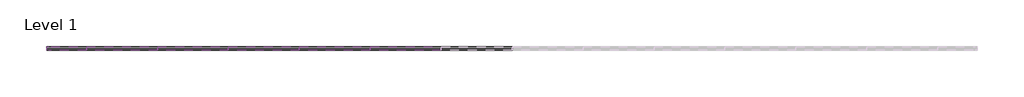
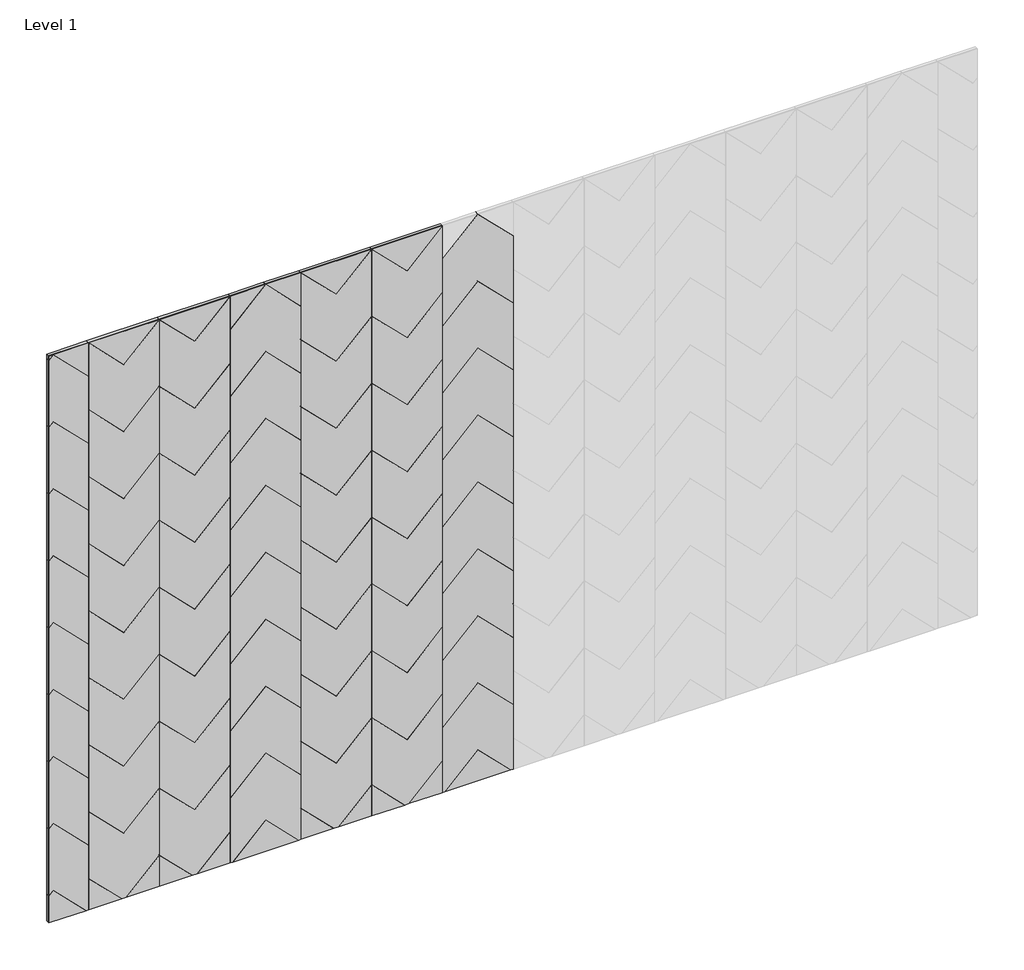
# One storey, part 1 of 2: 69 proxies.
"""IFC4 building model written with IfcOpenShell, lengths in millimetres."""

from ifc_helpers import new_model, si_unit, origin, place, context, project, spatial, transform, mapped, element, save
from components import dart_block_c844b8d5, dart_block_f40f4385, dart_block_8b6eca5b, dart_block_9fc4d5a6, dart_block_84291ee9, dart_block_d6e125e5, dart_block_31c125ed, dart_block_6d389e56, dart_block_a08385c4, dart_block_7aee04b3, dart_block_84e837c1

model = new_model("IFC4")

# Units and contexts
model_context = context("Model", 3, world=origin())
ifc_project = project(units=[si_unit("LENGTHUNIT", "METRE", prefix="MILLI")], contexts=[model_context])

# Site, building, storey
site = spatial("IfcSite", under=ifc_project)
building = spatial("IfcBuilding", under=site)
storey = spatial("IfcBuildingStorey", under=building, Name="Level 1", Elevation=0.0)

# Proxies
placement = place(None, origin())
dart_block_shape = dart_block_c844b8d5(model_context)
element("IfcBuildingElementProxy", 1, Name="FilzFelt_Dart_Block : Dart Block", ObjectType="FilzFelt_Dart_Block : Dart Block", at=placement, inside=storey, context=model_context, shape_type="MappedRepresentation", body=[
    mapped(dart_block_shape, transform((5246.9916002, -10315.1339335, 2763.5), x_axis=(1.0, 0.0, 0.0), y_axis=(0.0, 0.0, 1.0), z_axis=(0.0, -1.0, 0.0))),
])
dart_block_2_shape = dart_block_f40f4385(model_context)
element("IfcBuildingElementProxy", 2, Name="FilzFelt_Dart_Block : Dart Block", ObjectType="FilzFelt_Dart_Block : Dart Block", at=placement, inside=storey, context=model_context, shape_type="MappedRepresentation", body=[
    mapped(dart_block_2_shape, transform((5246.9916002, -10315.1339335, 2509.5), x_axis=(1.0, 0.0, 0.0), y_axis=(0.0, 0.0, 1.0), z_axis=(0.0, -1.0, 0.0))),
])
element("IfcBuildingElementProxy", 3, Name="FilzFelt_Dart_Block : Dart Block", ObjectType="FilzFelt_Dart_Block : Dart Block", at=placement, inside=storey, context=model_context, shape_type="MappedRepresentation", body=[
    mapped(dart_block_2_shape, transform((5246.9916002, -10315.1339335, 2001.5), x_axis=(1.0, 0.0, 0.0), y_axis=(0.0, 0.0, 1.0), z_axis=(0.0, -1.0, 0.0))),
])
element("IfcBuildingElementProxy", 4, Name="FilzFelt_Dart_Block : Dart Block", ObjectType="FilzFelt_Dart_Block : Dart Block", at=placement, inside=storey, context=model_context, shape_type="MappedRepresentation", body=[
    mapped(dart_block_2_shape, transform((5246.9916002, -10315.1339335, 1493.5), x_axis=(1.0, 0.0, 0.0), y_axis=(0.0, 0.0, 1.0), z_axis=(0.0, -1.0, 0.0))),
])
element("IfcBuildingElementProxy", 5, Name="FilzFelt_Dart_Block : Dart Block", ObjectType="FilzFelt_Dart_Block : Dart Block", at=placement, inside=storey, context=model_context, shape_type="MappedRepresentation", body=[
    mapped(dart_block_2_shape, transform((5246.9916002, -10315.1339335, 985.5), x_axis=(1.0, 0.0, 0.0), y_axis=(0.0, 0.0, 1.0), z_axis=(0.0, -1.0, 0.0))),
])
element("IfcBuildingElementProxy", 6, Name="FilzFelt_Dart_Block : Dart Block", ObjectType="FilzFelt_Dart_Block : Dart Block", at=placement, inside=storey, context=model_context, shape_type="MappedRepresentation", body=[
    mapped(dart_block_2_shape, transform((5246.9916002, -10315.1339335, 2255.5), x_axis=(1.0, 0.0, 0.0), y_axis=(0.0, 0.0, 1.0), z_axis=(0.0, -1.0, 0.0))),
])
element("IfcBuildingElementProxy", 7, Name="FilzFelt_Dart_Block : Dart Block", ObjectType="FilzFelt_Dart_Block : Dart Block", at=placement, inside=storey, context=model_context, shape_type="MappedRepresentation", body=[
    mapped(dart_block_2_shape, transform((5246.9916002, -10315.1339335, 1747.5), x_axis=(1.0, 0.0, 0.0), y_axis=(0.0, 0.0, 1.0), z_axis=(0.0, -1.0, 0.0))),
])
element("IfcBuildingElementProxy", 8, Name="FilzFelt_Dart_Block : Dart Block", ObjectType="FilzFelt_Dart_Block : Dart Block", at=placement, inside=storey, context=model_context, shape_type="MappedRepresentation", body=[
    mapped(dart_block_2_shape, transform((5246.9916002, -10315.1339335, 1239.5), x_axis=(1.0, 0.0, 0.0), y_axis=(0.0, 0.0, 1.0), z_axis=(0.0, -1.0, 0.0))),
])
dart_block_3_shape = dart_block_8b6eca5b(model_context)
element("IfcBuildingElementProxy", 9, Name="FilzFelt_Dart_Block : Dart Block", ObjectType="FilzFelt_Dart_Block : Dart Block", at=placement, inside=storey, context=model_context, shape_type="MappedRepresentation", body=[
    mapped(dart_block_3_shape, transform((5246.9916002, -10315.1339335, 731.5), x_axis=(1.0, 0.0, 0.0), y_axis=(0.0, 0.0, 1.0), z_axis=(0.0, -1.0, 0.0))),
])
dart_block_4_shape = dart_block_9fc4d5a6(model_context)
element("IfcBuildingElementProxy", 10, Name="FilzFelt_Dart_Block : Dart Block", ObjectType="FilzFelt_Dart_Block : Dart Block", at=placement, inside=storey, context=model_context, shape_type="MappedRepresentation", body=[
    mapped(dart_block_4_shape, transform((5246.9916002, -10315.1339335, 477.5), x_axis=(1.0, 0.0, 0.0), y_axis=(0.0, 0.0, 1.0), z_axis=(0.0, -1.0, 0.0))),
])
dart_block_5_shape = dart_block_84291ee9(model_context)
element("IfcBuildingElementProxy", 11, Name="FilzFelt_Dart_Block : Dart Block", ObjectType="FilzFelt_Dart_Block : Dart Block", at=placement, inside=storey, context=model_context, shape_type="MappedRepresentation", body=[
    mapped(dart_block_5_shape, transform((5500.9916002, -10315.1339335, 477.5), x_axis=(-1.0, 0.0, 0.0), y_axis=(0.0, 0.0, -1.0), z_axis=(0.0, -1.0, 0.0))),
])
element("IfcBuildingElementProxy", 12, Name="FilzFelt_Dart_Block : Dart Block", ObjectType="FilzFelt_Dart_Block : Dart Block", at=placement, inside=storey, context=model_context, shape_type="MappedRepresentation", body=[
    mapped(dart_block_5_shape, transform((6516.9916002, -10315.1339335, 477.5), x_axis=(-1.0, 0.0, 0.0), y_axis=(0.0, 0.0, -1.0), z_axis=(0.0, -1.0, 0.0))),
])
dart_block_6_shape = dart_block_d6e125e5(model_context)
element("IfcBuildingElementProxy", 13, Name="FilzFelt_Dart_Block : Dart Block", ObjectType="FilzFelt_Dart_Block : Dart Block", at=placement, inside=storey, context=model_context, shape_type="MappedRepresentation", body=[
    mapped(dart_block_6_shape, transform((5500.9916002, -10315.1339335, 731.5), x_axis=(-1.0, 0.0, 0.0), y_axis=(0.0, 0.0, -1.0), z_axis=(0.0, -1.0, 0.0))),
])
element("IfcBuildingElementProxy", 14, Name="FilzFelt_Dart_Block : Dart Block", ObjectType="FilzFelt_Dart_Block : Dart Block", at=placement, inside=storey, context=model_context, shape_type="MappedRepresentation", body=[
    mapped(dart_block_6_shape, transform((6516.9916002, -10315.1339335, 731.5), x_axis=(-1.0, 0.0, 0.0), y_axis=(0.0, 0.0, -1.0), z_axis=(0.0, -1.0, 0.0))),
])
dart_block_7_shape = dart_block_31c125ed(model_context)
element("IfcBuildingElementProxy", 15, Name="FilzFelt_Dart_Block : Dart Block", ObjectType="FilzFelt_Dart_Block : Dart Block", at=placement, inside=storey, context=model_context, shape_type="MappedRepresentation", body=[
    mapped(dart_block_7_shape, transform((5500.9916002, -10315.1339335, 985.5), x_axis=(-1.0, 0.0, 0.0), y_axis=(0.0, 0.0, -1.0), z_axis=(0.0, -1.0, 0.0))),
])
element("IfcBuildingElementProxy", 16, Name="FilzFelt_Dart_Block : Dart Block", ObjectType="FilzFelt_Dart_Block : Dart Block", at=placement, inside=storey, context=model_context, shape_type="MappedRepresentation", body=[
    mapped(dart_block_7_shape, transform((5500.9916002, -10315.1339335, 1493.5), x_axis=(-1.0, 0.0, 0.0), y_axis=(0.0, 0.0, -1.0), z_axis=(0.0, -1.0, 0.0))),
])
element("IfcBuildingElementProxy", 17, Name="FilzFelt_Dart_Block : Dart Block", ObjectType="FilzFelt_Dart_Block : Dart Block", at=placement, inside=storey, context=model_context, shape_type="MappedRepresentation", body=[
    mapped(dart_block_7_shape, transform((5500.9916002, -10315.1339335, 2001.5), x_axis=(-1.0, 0.0, 0.0), y_axis=(0.0, 0.0, -1.0), z_axis=(0.0, -1.0, 0.0))),
])
element("IfcBuildingElementProxy", 18, Name="FilzFelt_Dart_Block : Dart Block", ObjectType="FilzFelt_Dart_Block : Dart Block", at=placement, inside=storey, context=model_context, shape_type="MappedRepresentation", body=[
    mapped(dart_block_7_shape, transform((5500.9916002, -10315.1339335, 2509.5), x_axis=(-1.0, 0.0, 0.0), y_axis=(0.0, 0.0, -1.0), z_axis=(0.0, -1.0, 0.0))),
])
element("IfcBuildingElementProxy", 19, Name="FilzFelt_Dart_Block : Dart Block", ObjectType="FilzFelt_Dart_Block : Dart Block", at=placement, inside=storey, context=model_context, shape_type="MappedRepresentation", body=[
    mapped(dart_block_7_shape, transform((5754.9916002, -10315.1339335, 1239.5), x_axis=(-1.0, 0.0, 0.0), y_axis=(0.0, 0.0, -1.0), z_axis=(0.0, -1.0, 0.0))),
])
element("IfcBuildingElementProxy", 20, Name="FilzFelt_Dart_Block : Dart Block", ObjectType="FilzFelt_Dart_Block : Dart Block", at=placement, inside=storey, context=model_context, shape_type="MappedRepresentation", body=[
    mapped(dart_block_7_shape, transform((5754.9916002, -10315.1339335, 1747.5), x_axis=(-1.0, 0.0, 0.0), y_axis=(0.0, 0.0, -1.0), z_axis=(0.0, -1.0, 0.0))),
])
element("IfcBuildingElementProxy", 21, Name="FilzFelt_Dart_Block : Dart Block", ObjectType="FilzFelt_Dart_Block : Dart Block", at=placement, inside=storey, context=model_context, shape_type="MappedRepresentation", body=[
    mapped(dart_block_7_shape, transform((5754.9916002, -10315.1339335, 2255.5), x_axis=(-1.0, 0.0, 0.0), y_axis=(0.0, 0.0, -1.0), z_axis=(0.0, -1.0, 0.0))),
])
element("IfcBuildingElementProxy", 22, Name="FilzFelt_Dart_Block : Dart Block", ObjectType="FilzFelt_Dart_Block : Dart Block", at=placement, inside=storey, context=model_context, shape_type="MappedRepresentation", body=[
    mapped(dart_block_7_shape, transform((6008.9916002, -10315.1339335, 2509.5), x_axis=(1.0, 0.0, 0.0), y_axis=(0.0, 0.0, 1.0), z_axis=(0.0, -1.0, 0.0))),
])
element("IfcBuildingElementProxy", 23, Name="FilzFelt_Dart_Block : Dart Block", ObjectType="FilzFelt_Dart_Block : Dart Block", at=placement, inside=storey, context=model_context, shape_type="MappedRepresentation", body=[
    mapped(dart_block_7_shape, transform((6008.9916002, -10315.1339335, 2001.5), x_axis=(1.0, 0.0, 0.0), y_axis=(0.0, 0.0, 1.0), z_axis=(0.0, -1.0, 0.0))),
])
element("IfcBuildingElementProxy", 24, Name="FilzFelt_Dart_Block : Dart Block", ObjectType="FilzFelt_Dart_Block : Dart Block", at=placement, inside=storey, context=model_context, shape_type="MappedRepresentation", body=[
    mapped(dart_block_7_shape, transform((6008.9916002, -10315.1339335, 1493.5), x_axis=(1.0, 0.0, 0.0), y_axis=(0.0, 0.0, 1.0), z_axis=(0.0, -1.0, 0.0))),
])
element("IfcBuildingElementProxy", 25, Name="FilzFelt_Dart_Block : Dart Block", ObjectType="FilzFelt_Dart_Block : Dart Block", at=placement, inside=storey, context=model_context, shape_type="MappedRepresentation", body=[
    mapped(dart_block_7_shape, transform((6008.9916002, -10315.1339335, 985.5), x_axis=(1.0, 0.0, 0.0), y_axis=(0.0, 0.0, 1.0), z_axis=(0.0, -1.0, 0.0))),
])
element("IfcBuildingElementProxy", 26, Name="FilzFelt_Dart_Block : Dart Block", ObjectType="FilzFelt_Dart_Block : Dart Block", at=placement, inside=storey, context=model_context, shape_type="MappedRepresentation", body=[
    mapped(dart_block_7_shape, transform((6262.9916002, -10315.1339335, 1239.5), x_axis=(-1.0, 0.0, 0.0), y_axis=(0.0, 0.0, -1.0), z_axis=(0.0, -1.0, 0.0))),
])
element("IfcBuildingElementProxy", 27, Name="FilzFelt_Dart_Block : Dart Block", ObjectType="FilzFelt_Dart_Block : Dart Block", at=placement, inside=storey, context=model_context, shape_type="MappedRepresentation", body=[
    mapped(dart_block_7_shape, transform((6262.9916002, -10315.1339335, 1747.5), x_axis=(-1.0, 0.0, 0.0), y_axis=(0.0, 0.0, -1.0), z_axis=(0.0, -1.0, 0.0))),
])
element("IfcBuildingElementProxy", 28, Name="FilzFelt_Dart_Block : Dart Block", ObjectType="FilzFelt_Dart_Block : Dart Block", at=placement, inside=storey, context=model_context, shape_type="MappedRepresentation", body=[
    mapped(dart_block_7_shape, transform((6262.9916002, -10315.1339335, 2255.5), x_axis=(-1.0, 0.0, 0.0), y_axis=(0.0, 0.0, -1.0), z_axis=(0.0, -1.0, 0.0))),
])
element("IfcBuildingElementProxy", 29, Name="FilzFelt_Dart_Block : Dart Block", ObjectType="FilzFelt_Dart_Block : Dart Block", at=placement, inside=storey, context=model_context, shape_type="MappedRepresentation", body=[
    mapped(dart_block_7_shape, transform((6516.9916002, -10315.1339335, 985.5), x_axis=(-1.0, 0.0, 0.0), y_axis=(0.0, 0.0, -1.0), z_axis=(0.0, -1.0, 0.0))),
])
element("IfcBuildingElementProxy", 30, Name="FilzFelt_Dart_Block : Dart Block", ObjectType="FilzFelt_Dart_Block : Dart Block", at=placement, inside=storey, context=model_context, shape_type="MappedRepresentation", body=[
    mapped(dart_block_7_shape, transform((6516.9916002, -10315.1339335, 1493.5), x_axis=(-1.0, 0.0, 0.0), y_axis=(0.0, 0.0, -1.0), z_axis=(0.0, -1.0, 0.0))),
])
element("IfcBuildingElementProxy", 31, Name="FilzFelt_Dart_Block : Dart Block", ObjectType="FilzFelt_Dart_Block : Dart Block", at=placement, inside=storey, context=model_context, shape_type="MappedRepresentation", body=[
    mapped(dart_block_7_shape, transform((6516.9916002, -10315.1339335, 2001.5), x_axis=(-1.0, 0.0, 0.0), y_axis=(0.0, 0.0, -1.0), z_axis=(0.0, -1.0, 0.0))),
])
element("IfcBuildingElementProxy", 32, Name="FilzFelt_Dart_Block : Dart Block", ObjectType="FilzFelt_Dart_Block : Dart Block", at=placement, inside=storey, context=model_context, shape_type="MappedRepresentation", body=[
    mapped(dart_block_7_shape, transform((6516.9916002, -10315.1339335, 2509.5), x_axis=(-1.0, 0.0, 0.0), y_axis=(0.0, 0.0, -1.0), z_axis=(0.0, -1.0, 0.0))),
])
element("IfcBuildingElementProxy", 33, Name="FilzFelt_Dart_Block : Dart Block", ObjectType="FilzFelt_Dart_Block : Dart Block", at=placement, inside=storey, context=model_context, shape_type="MappedRepresentation", body=[
    mapped(dart_block_7_shape, transform((6770.9916002, -10315.1339335, 2509.5), x_axis=(1.0, 0.0, 0.0), y_axis=(0.0, 0.0, 1.0), z_axis=(0.0, -1.0, 0.0))),
])
element("IfcBuildingElementProxy", 34, Name="FilzFelt_Dart_Block : Dart Block", ObjectType="FilzFelt_Dart_Block : Dart Block", at=placement, inside=storey, context=model_context, shape_type="MappedRepresentation", body=[
    mapped(dart_block_7_shape, transform((6770.9916002, -10315.1339335, 2001.5), x_axis=(1.0, 0.0, 0.0), y_axis=(0.0, 0.0, 1.0), z_axis=(0.0, -1.0, 0.0))),
])
element("IfcBuildingElementProxy", 35, Name="FilzFelt_Dart_Block : Dart Block", ObjectType="FilzFelt_Dart_Block : Dart Block", at=placement, inside=storey, context=model_context, shape_type="MappedRepresentation", body=[
    mapped(dart_block_7_shape, transform((6770.9916002, -10315.1339335, 1493.5), x_axis=(1.0, 0.0, 0.0), y_axis=(0.0, 0.0, 1.0), z_axis=(0.0, -1.0, 0.0))),
])
element("IfcBuildingElementProxy", 36, Name="FilzFelt_Dart_Block : Dart Block", ObjectType="FilzFelt_Dart_Block : Dart Block", at=placement, inside=storey, context=model_context, shape_type="MappedRepresentation", body=[
    mapped(dart_block_7_shape, transform((6770.9916002, -10315.1339335, 985.5), x_axis=(1.0, 0.0, 0.0), y_axis=(0.0, 0.0, 1.0), z_axis=(0.0, -1.0, 0.0))),
])
element("IfcBuildingElementProxy", 37, Name="FilzFelt_Dart_Block : Dart Block", ObjectType="FilzFelt_Dart_Block : Dart Block", at=placement, inside=storey, context=model_context, shape_type="MappedRepresentation", body=[
    mapped(dart_block_7_shape, transform((5500.9916002, -10315.1339335, 1239.5), x_axis=(-1.0, 0.0, 0.0), y_axis=(0.0, 0.0, -1.0), z_axis=(0.0, -1.0, 0.0))),
])
element("IfcBuildingElementProxy", 38, Name="FilzFelt_Dart_Block : Dart Block", ObjectType="FilzFelt_Dart_Block : Dart Block", at=placement, inside=storey, context=model_context, shape_type="MappedRepresentation", body=[
    mapped(dart_block_7_shape, transform((5500.9916002, -10315.1339335, 1747.5), x_axis=(-1.0, 0.0, 0.0), y_axis=(0.0, 0.0, -1.0), z_axis=(0.0, -1.0, 0.0))),
])
element("IfcBuildingElementProxy", 39, Name="FilzFelt_Dart_Block : Dart Block", ObjectType="FilzFelt_Dart_Block : Dart Block", at=placement, inside=storey, context=model_context, shape_type="MappedRepresentation", body=[
    mapped(dart_block_7_shape, transform((5500.9916002, -10315.1339335, 2255.5), x_axis=(-1.0, 0.0, 0.0), y_axis=(0.0, 0.0, -1.0), z_axis=(0.0, -1.0, 0.0))),
])
element("IfcBuildingElementProxy", 40, Name="FilzFelt_Dart_Block : Dart Block", ObjectType="FilzFelt_Dart_Block : Dart Block", at=placement, inside=storey, context=model_context, shape_type="MappedRepresentation", body=[
    mapped(dart_block_7_shape, transform((5754.9916002, -10315.1339335, 985.5), x_axis=(-1.0, 0.0, 0.0), y_axis=(0.0, 0.0, -1.0), z_axis=(0.0, -1.0, 0.0))),
])
element("IfcBuildingElementProxy", 41, Name="FilzFelt_Dart_Block : Dart Block", ObjectType="FilzFelt_Dart_Block : Dart Block", at=placement, inside=storey, context=model_context, shape_type="MappedRepresentation", body=[
    mapped(dart_block_7_shape, transform((5754.9916002, -10315.1339335, 1493.5), x_axis=(-1.0, 0.0, 0.0), y_axis=(0.0, 0.0, -1.0), z_axis=(0.0, -1.0, 0.0))),
])
element("IfcBuildingElementProxy", 42, Name="FilzFelt_Dart_Block : Dart Block", ObjectType="FilzFelt_Dart_Block : Dart Block", at=placement, inside=storey, context=model_context, shape_type="MappedRepresentation", body=[
    mapped(dart_block_7_shape, transform((5754.9916002, -10315.1339335, 2001.5), x_axis=(-1.0, 0.0, 0.0), y_axis=(0.0, 0.0, -1.0), z_axis=(0.0, -1.0, 0.0))),
])
element("IfcBuildingElementProxy", 43, Name="FilzFelt_Dart_Block : Dart Block", ObjectType="FilzFelt_Dart_Block : Dart Block", at=placement, inside=storey, context=model_context, shape_type="MappedRepresentation", body=[
    mapped(dart_block_7_shape, transform((5754.9916002, -10315.1339335, 2509.5), x_axis=(-1.0, 0.0, 0.0), y_axis=(0.0, 0.0, -1.0), z_axis=(0.0, -1.0, 0.0))),
])
element("IfcBuildingElementProxy", 44, Name="FilzFelt_Dart_Block : Dart Block", ObjectType="FilzFelt_Dart_Block : Dart Block", at=placement, inside=storey, context=model_context, shape_type="MappedRepresentation", body=[
    mapped(dart_block_7_shape, transform((6008.9916002, -10315.1339335, 2255.5), x_axis=(1.0, 0.0, 0.0), y_axis=(0.0, 0.0, 1.0), z_axis=(0.0, -1.0, 0.0))),
])
element("IfcBuildingElementProxy", 45, Name="FilzFelt_Dart_Block : Dart Block", ObjectType="FilzFelt_Dart_Block : Dart Block", at=placement, inside=storey, context=model_context, shape_type="MappedRepresentation", body=[
    mapped(dart_block_7_shape, transform((6008.9916002, -10315.1339335, 1747.5), x_axis=(1.0, 0.0, 0.0), y_axis=(0.0, 0.0, 1.0), z_axis=(0.0, -1.0, 0.0))),
])
element("IfcBuildingElementProxy", 46, Name="FilzFelt_Dart_Block : Dart Block", ObjectType="FilzFelt_Dart_Block : Dart Block", at=placement, inside=storey, context=model_context, shape_type="MappedRepresentation", body=[
    mapped(dart_block_7_shape, transform((6008.9916002, -10315.1339335, 1239.5), x_axis=(1.0, 0.0, 0.0), y_axis=(0.0, 0.0, 1.0), z_axis=(0.0, -1.0, 0.0))),
])
element("IfcBuildingElementProxy", 47, Name="FilzFelt_Dart_Block : Dart Block", ObjectType="FilzFelt_Dart_Block : Dart Block", at=placement, inside=storey, context=model_context, shape_type="MappedRepresentation", body=[
    mapped(dart_block_7_shape, transform((6262.9916002, -10315.1339335, 985.5), x_axis=(-1.0, 0.0, 0.0), y_axis=(0.0, 0.0, -1.0), z_axis=(0.0, -1.0, 0.0))),
])
element("IfcBuildingElementProxy", 48, Name="FilzFelt_Dart_Block : Dart Block", ObjectType="FilzFelt_Dart_Block : Dart Block", at=placement, inside=storey, context=model_context, shape_type="MappedRepresentation", body=[
    mapped(dart_block_7_shape, transform((6262.9916002, -10315.1339335, 1493.5), x_axis=(-1.0, 0.0, 0.0), y_axis=(0.0, 0.0, -1.0), z_axis=(0.0, -1.0, 0.0))),
])
element("IfcBuildingElementProxy", 49, Name="FilzFelt_Dart_Block : Dart Block", ObjectType="FilzFelt_Dart_Block : Dart Block", at=placement, inside=storey, context=model_context, shape_type="MappedRepresentation", body=[
    mapped(dart_block_7_shape, transform((6262.9916002, -10315.1339335, 2001.5), x_axis=(-1.0, 0.0, 0.0), y_axis=(0.0, 0.0, -1.0), z_axis=(0.0, -1.0, 0.0))),
])
element("IfcBuildingElementProxy", 50, Name="FilzFelt_Dart_Block : Dart Block", ObjectType="FilzFelt_Dart_Block : Dart Block", at=placement, inside=storey, context=model_context, shape_type="MappedRepresentation", body=[
    mapped(dart_block_7_shape, transform((6262.9916002, -10315.1339335, 2509.5), x_axis=(-1.0, 0.0, 0.0), y_axis=(0.0, 0.0, -1.0), z_axis=(0.0, -1.0, 0.0))),
])
element("IfcBuildingElementProxy", 51, Name="FilzFelt_Dart_Block : Dart Block", ObjectType="FilzFelt_Dart_Block : Dart Block", at=placement, inside=storey, context=model_context, shape_type="MappedRepresentation", body=[
    mapped(dart_block_7_shape, transform((6516.9916002, -10315.1339335, 1239.5), x_axis=(-1.0, 0.0, 0.0), y_axis=(0.0, 0.0, -1.0), z_axis=(0.0, -1.0, 0.0))),
])
element("IfcBuildingElementProxy", 52, Name="FilzFelt_Dart_Block : Dart Block", ObjectType="FilzFelt_Dart_Block : Dart Block", at=placement, inside=storey, context=model_context, shape_type="MappedRepresentation", body=[
    mapped(dart_block_7_shape, transform((6516.9916002, -10315.1339335, 1747.5), x_axis=(-1.0, 0.0, 0.0), y_axis=(0.0, 0.0, -1.0), z_axis=(0.0, -1.0, 0.0))),
])
element("IfcBuildingElementProxy", 53, Name="FilzFelt_Dart_Block : Dart Block", ObjectType="FilzFelt_Dart_Block : Dart Block", at=placement, inside=storey, context=model_context, shape_type="MappedRepresentation", body=[
    mapped(dart_block_7_shape, transform((6516.9916002, -10315.1339335, 2255.5), x_axis=(-1.0, 0.0, 0.0), y_axis=(0.0, 0.0, -1.0), z_axis=(0.0, -1.0, 0.0))),
])
element("IfcBuildingElementProxy", 54, Name="FilzFelt_Dart_Block : Dart Block", ObjectType="FilzFelt_Dart_Block : Dart Block", at=placement, inside=storey, context=model_context, shape_type="MappedRepresentation", body=[
    mapped(dart_block_7_shape, transform((6770.9916002, -10315.1339335, 2255.5), x_axis=(1.0, 0.0, 0.0), y_axis=(0.0, 0.0, 1.0), z_axis=(0.0, -1.0, 0.0))),
])
element("IfcBuildingElementProxy", 55, Name="FilzFelt_Dart_Block : Dart Block", ObjectType="FilzFelt_Dart_Block : Dart Block", at=placement, inside=storey, context=model_context, shape_type="MappedRepresentation", body=[
    mapped(dart_block_7_shape, transform((6770.9916002, -10315.1339335, 1747.5), x_axis=(1.0, 0.0, 0.0), y_axis=(0.0, 0.0, 1.0), z_axis=(0.0, -1.0, 0.0))),
])
element("IfcBuildingElementProxy", 56, Name="FilzFelt_Dart_Block : Dart Block", ObjectType="FilzFelt_Dart_Block : Dart Block", at=placement, inside=storey, context=model_context, shape_type="MappedRepresentation", body=[
    mapped(dart_block_7_shape, transform((6770.9916002, -10315.1339335, 1239.5), x_axis=(1.0, 0.0, 0.0), y_axis=(0.0, 0.0, 1.0), z_axis=(0.0, -1.0, 0.0))),
])
dart_block_8_shape = dart_block_6d389e56(model_context)
element("IfcBuildingElementProxy", 57, Name="FilzFelt_Dart_Block : Dart Block", ObjectType="FilzFelt_Dart_Block : Dart Block", at=placement, inside=storey, context=model_context, shape_type="MappedRepresentation", body=[
    mapped(dart_block_8_shape, transform((5500.9916002, -10315.1339335, 2763.5), x_axis=(-1.0, 0.0, 0.0), y_axis=(0.0, 0.0, -1.0), z_axis=(0.0, -1.0, 0.0))),
])
element("IfcBuildingElementProxy", 58, Name="FilzFelt_Dart_Block : Dart Block", ObjectType="FilzFelt_Dart_Block : Dart Block", at=placement, inside=storey, context=model_context, shape_type="MappedRepresentation", body=[
    mapped(dart_block_8_shape, transform((6516.9916002, -10315.1339335, 2763.5), x_axis=(-1.0, 0.0, 0.0), y_axis=(0.0, 0.0, -1.0), z_axis=(0.0, -1.0, 0.0))),
])
element("IfcBuildingElementProxy", 59, Name="FilzFelt_Dart_Block : Dart Block", ObjectType="FilzFelt_Dart_Block : Dart Block", at=placement, inside=storey, context=model_context, shape_type="MappedRepresentation", body=[
    mapped(dart_block_5_shape, transform((5754.9916002, -10315.1339335, 477.5), x_axis=(-1.0, 0.0, 0.0), y_axis=(0.0, 0.0, -1.0), z_axis=(0.0, -1.0, 0.0))),
])
element("IfcBuildingElementProxy", 60, Name="FilzFelt_Dart_Block : Dart Block", ObjectType="FilzFelt_Dart_Block : Dart Block", at=placement, inside=storey, context=model_context, shape_type="MappedRepresentation", body=[
    mapped(dart_block_5_shape, transform((6262.9916002, -10315.1339335, 477.5), x_axis=(-1.0, 0.0, 0.0), y_axis=(0.0, 0.0, -1.0), z_axis=(0.0, -1.0, 0.0))),
])
element("IfcBuildingElementProxy", 61, Name="FilzFelt_Dart_Block : Dart Block", ObjectType="FilzFelt_Dart_Block : Dart Block", at=placement, inside=storey, context=model_context, shape_type="MappedRepresentation", body=[
    mapped(dart_block_6_shape, transform((5754.9916002, -10315.1339335, 731.5), x_axis=(-1.0, 0.0, 0.0), y_axis=(0.0, 0.0, -1.0), z_axis=(0.0, -1.0, 0.0))),
])
element("IfcBuildingElementProxy", 62, Name="FilzFelt_Dart_Block : Dart Block", ObjectType="FilzFelt_Dart_Block : Dart Block", at=placement, inside=storey, context=model_context, shape_type="MappedRepresentation", body=[
    mapped(dart_block_6_shape, transform((6262.9916002, -10315.1339335, 731.5), x_axis=(-1.0, 0.0, 0.0), y_axis=(0.0, 0.0, -1.0), z_axis=(0.0, -1.0, 0.0))),
])
element("IfcBuildingElementProxy", 63, Name="FilzFelt_Dart_Block : Dart Block", ObjectType="FilzFelt_Dart_Block : Dart Block", at=placement, inside=storey, context=model_context, shape_type="MappedRepresentation", body=[
    mapped(dart_block_8_shape, transform((5754.9916002, -10315.1339335, 2763.5), x_axis=(-1.0, 0.0, 0.0), y_axis=(0.0, 0.0, -1.0), z_axis=(0.0, -1.0, 0.0))),
])
element("IfcBuildingElementProxy", 64, Name="FilzFelt_Dart_Block : Dart Block", ObjectType="FilzFelt_Dart_Block : Dart Block", at=placement, inside=storey, context=model_context, shape_type="MappedRepresentation", body=[
    mapped(dart_block_8_shape, transform((6262.9916002, -10315.1339335, 2763.5), x_axis=(-1.0, 0.0, 0.0), y_axis=(0.0, 0.0, -1.0), z_axis=(0.0, -1.0, 0.0))),
])
dart_block_9_shape = dart_block_a08385c4(model_context)
element("IfcBuildingElementProxy", 65, Name="FilzFelt_Dart_Block : Dart Block", ObjectType="FilzFelt_Dart_Block : Dart Block", at=placement, inside=storey, context=model_context, shape_type="MappedRepresentation", body=[
    mapped(dart_block_9_shape, transform((6008.9916002, -10315.1339335, 731.5), x_axis=(1.0, 0.0, 0.0), y_axis=(0.0, 0.0, 1.0), z_axis=(0.0, -1.0, 0.0))),
])
element("IfcBuildingElementProxy", 66, Name="FilzFelt_Dart_Block : Dart Block", ObjectType="FilzFelt_Dart_Block : Dart Block", at=placement, inside=storey, context=model_context, shape_type="MappedRepresentation", body=[
    mapped(dart_block_9_shape, transform((6770.9916002, -10315.1339335, 731.5), x_axis=(1.0, 0.0, 0.0), y_axis=(0.0, 0.0, 1.0), z_axis=(0.0, -1.0, 0.0))),
])
dart_block_10_shape = dart_block_7aee04b3(model_context)
element("IfcBuildingElementProxy", 67, Name="FilzFelt_Dart_Block : Dart Block", ObjectType="FilzFelt_Dart_Block : Dart Block", at=placement, inside=storey, context=model_context, shape_type="MappedRepresentation", body=[
    mapped(dart_block_10_shape, transform((6008.9916002, -10315.1339335, 477.5), x_axis=(1.0, 0.0, 0.0), y_axis=(0.0, 0.0, 1.0), z_axis=(0.0, -1.0, 0.0))),
])
element("IfcBuildingElementProxy", 68, Name="FilzFelt_Dart_Block : Dart Block", ObjectType="FilzFelt_Dart_Block : Dart Block", at=placement, inside=storey, context=model_context, shape_type="MappedRepresentation", body=[
    mapped(dart_block_10_shape, transform((6770.9916002, -10315.1339335, 477.5), x_axis=(1.0, 0.0, 0.0), y_axis=(0.0, 0.0, 1.0), z_axis=(0.0, -1.0, 0.0))),
])
dart_block_11_shape = dart_block_84e837c1(model_context)
element("IfcBuildingElementProxy", 69, Name="FilzFelt_Dart_Block : Dart Block", ObjectType="FilzFelt_Dart_Block : Dart Block", at=placement, inside=storey, context=model_context, shape_type="MappedRepresentation", body=[
    mapped(dart_block_11_shape, transform((6008.9916002, -10315.1339335, 2763.5), x_axis=(1.0, 0.0, 0.0), y_axis=(0.0, 0.0, 1.0), z_axis=(0.0, -1.0, 0.0))),
])

save(model, "model.ifc")
